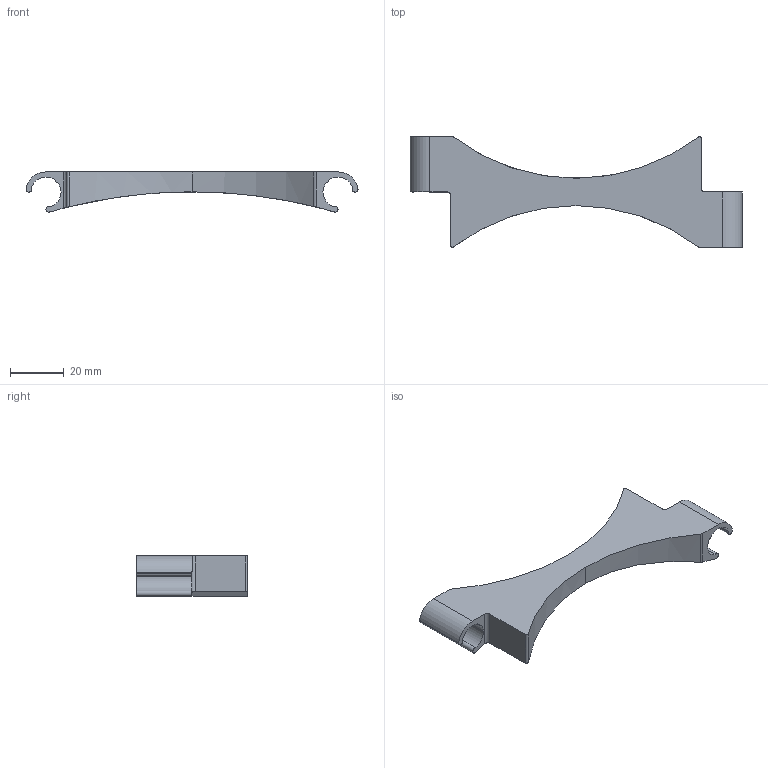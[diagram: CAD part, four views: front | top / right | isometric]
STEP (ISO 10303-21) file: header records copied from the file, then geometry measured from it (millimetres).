
FILE_DESCRIPTION (( 'STEP AP214' ), '1' );
FILE_NAME ('Flaschenhalter.STEP', '2010-10-06T11:48:18', ( 'grass' ), ( '' ), 'SwSTEP 2.0', 'SolidWorks 2010', '' );
FILE_SCHEMA (( 'AUTOMOTIVE_DESIGN' ));
Length unit declared in the file: millimetre
Products named in the file (1): Flaschenhalter
Bounding box: 123.11 x 41 x 14.9 mm (x, y, z)
Volume: 22344.2 mm3; surface area: 8832.2 mm2
Topology: 1 solids, 1 shells, 36 faces, 102 edges, 68 vertices
Faces by surface type: cylinder 29, plane 7
Entity records: 1318 total; most frequent: CARTESIAN_POINT 315, DIRECTION 216, ORIENTED_EDGE 204, EDGE_CURVE 102, AXIS2_PLACEMENT_3D 87, VERTEX_POINT 68, CIRCLE 50, LINE 42
